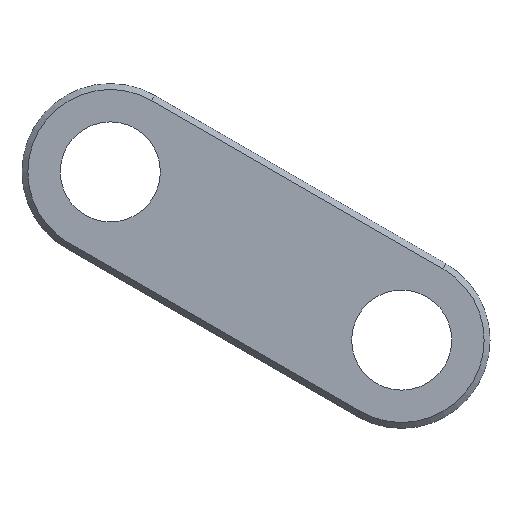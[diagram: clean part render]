
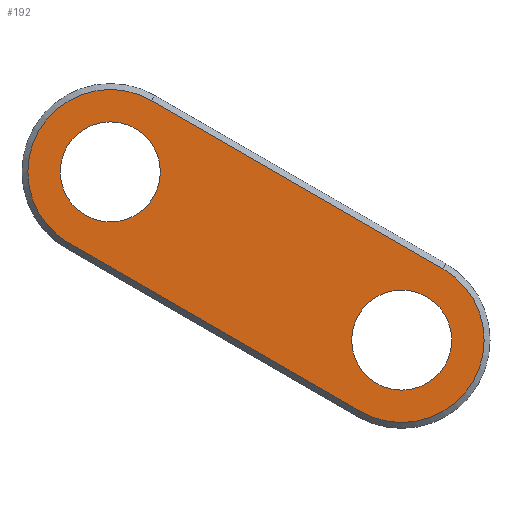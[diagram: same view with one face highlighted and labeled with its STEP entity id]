
A CAD part, left-side view. The second image highlights one B-rep face of the part: STEP entity #192.
In plain terms, the highlighted planar face has unit normal (-1, 0, 0).
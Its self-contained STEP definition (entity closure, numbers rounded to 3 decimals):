
#54=AXIS2_PLACEMENT_3D('Circle Axis2P3D',#52,#53,$) ;
#78=AXIS2_PLACEMENT_3D('Circle Axis2P3D',#76,#77,$) ;
#111=AXIS2_PLACEMENT_3D('Circle Axis2P3D',#109,#110,$) ;
#135=AXIS2_PLACEMENT_3D('Circle Axis2P3D',#133,#134,$) ;
#148=AXIS2_PLACEMENT_3D('Plane Axis2P3D',#145,#146,#147) ;
#152=AXIS2_PLACEMENT_3D('Circle Axis2P3D',#150,#151,$) ;
#168=AXIS2_PLACEMENT_3D('Circle Axis2P3D',#166,#167,$) ;
#49=CARTESIAN_POINT('Vertex',(37499.1,1514.76,2369.212)) ;
#52=CARTESIAN_POINT('Axis2P3D Location',(37499.1,1506.26,2369.212)) ;
#56=CARTESIAN_POINT('Vertex',(37499.1,1497.76,2369.212)) ;
#76=CARTESIAN_POINT('Axis2P3D Location',(37499.1,1506.26,2369.212)) ;
#106=CARTESIAN_POINT('Vertex',(37499.1,1564.252,2397.787)) ;
#109=CARTESIAN_POINT('Axis2P3D Location',(37499.1,1555.752,2397.787)) ;
#113=CARTESIAN_POINT('Vertex',(37499.1,1547.252,2397.787)) ;
#133=CARTESIAN_POINT('Axis2P3D Location',(37499.1,1555.752,2397.787)) ;
#145=CARTESIAN_POINT('Axis2P3D Location',(37499.1,1506.26,2369.212)) ;
#150=CARTESIAN_POINT('Axis2P3D Location',(37499.1,1506.26,2369.212)) ;
#154=CARTESIAN_POINT('Vertex',(37499.1,1499.26,2381.337)) ;
#156=CARTESIAN_POINT('Vertex',(37499.1,1513.26,2357.088)) ;
#159=CARTESIAN_POINT('Line Origine',(37499.1,1524.006,2395.624)) ;
#163=CARTESIAN_POINT('Vertex',(37499.1,1548.752,2409.911)) ;
#166=CARTESIAN_POINT('Axis2P3D Location',(37499.1,1555.752,2397.787)) ;
#170=CARTESIAN_POINT('Vertex',(37499.1,1562.752,2385.663)) ;
#173=CARTESIAN_POINT('Line Origine',(37499.1,1538.006,2371.375)) ;
#53=DIRECTION('Axis2P3D Direction',(1.,-0.,0.)) ;
#77=DIRECTION('Axis2P3D Direction',(1.,-0.,0.)) ;
#110=DIRECTION('Axis2P3D Direction',(1.,-0.,0.)) ;
#134=DIRECTION('Axis2P3D Direction',(1.,-0.,0.)) ;
#146=DIRECTION('Axis2P3D Direction',(1.,0.,0.)) ;
#147=DIRECTION('Axis2P3D XDirection',(0.,1.,0.)) ;
#151=DIRECTION('Axis2P3D Direction',(1.,0.,0.)) ;
#160=DIRECTION('Vector Direction',(0.,0.866,0.5)) ;
#167=DIRECTION('Axis2P3D Direction',(1.,0.,0.)) ;
#174=DIRECTION('Vector Direction',(0.,-0.866,-0.5)) ;
#161=VECTOR('Line Direction',#160,1.) ;
#175=VECTOR('Line Direction',#174,1.) ;
#179=ORIENTED_EDGE('',*,*,#158,.F.) ;
#180=ORIENTED_EDGE('',*,*,#165,.F.) ;
#181=ORIENTED_EDGE('',*,*,#172,.F.) ;
#182=ORIENTED_EDGE('',*,*,#177,.F.) ;
#185=ORIENTED_EDGE('',*,*,#80,.T.) ;
#186=ORIENTED_EDGE('',*,*,#58,.T.) ;
#189=ORIENTED_EDGE('',*,*,#137,.T.) ;
#190=ORIENTED_EDGE('',*,*,#115,.T.) ;
#187=FACE_BOUND('',#184,.T.) ;
#191=FACE_BOUND('',#188,.T.) ;
#192=ADVANCED_FACE('V.9626.7522.810.051-02 - \X2\041704320435043D043E\X0\',(#183,#187,#191),#149,.F.) ;
#55=CIRCLE('generated circle',#54,8.5) ;
#79=CIRCLE('generated circle',#78,8.5) ;
#112=CIRCLE('generated circle',#111,8.5) ;
#136=CIRCLE('generated circle',#135,8.5) ;
#153=CIRCLE('generated circle',#152,14.) ;
#169=CIRCLE('generated circle',#168,14.) ;
#58=EDGE_CURVE('',#57,#50,#55,.T.) ;
#80=EDGE_CURVE('',#50,#57,#79,.T.) ;
#115=EDGE_CURVE('',#114,#107,#112,.T.) ;
#137=EDGE_CURVE('',#107,#114,#136,.T.) ;
#158=EDGE_CURVE('',#155,#157,#153,.T.) ;
#165=EDGE_CURVE('',#164,#155,#162,.F.) ;
#172=EDGE_CURVE('',#171,#164,#169,.T.) ;
#177=EDGE_CURVE('',#157,#171,#176,.F.) ;
#178=EDGE_LOOP('',(#179,#180,#181,#182)) ;
#184=EDGE_LOOP('',(#185,#186)) ;
#188=EDGE_LOOP('',(#189,#190)) ;
#183=FACE_OUTER_BOUND('',#178,.T.) ;
#162=LINE('Line',#159,#161) ;
#176=LINE('Line',#173,#175) ;
#149=PLANE('',#148) ;
#50=VERTEX_POINT('',#49) ;
#57=VERTEX_POINT('',#56) ;
#107=VERTEX_POINT('',#106) ;
#114=VERTEX_POINT('',#113) ;
#155=VERTEX_POINT('',#154) ;
#157=VERTEX_POINT('',#156) ;
#164=VERTEX_POINT('',#163) ;
#171=VERTEX_POINT('',#170) ;
